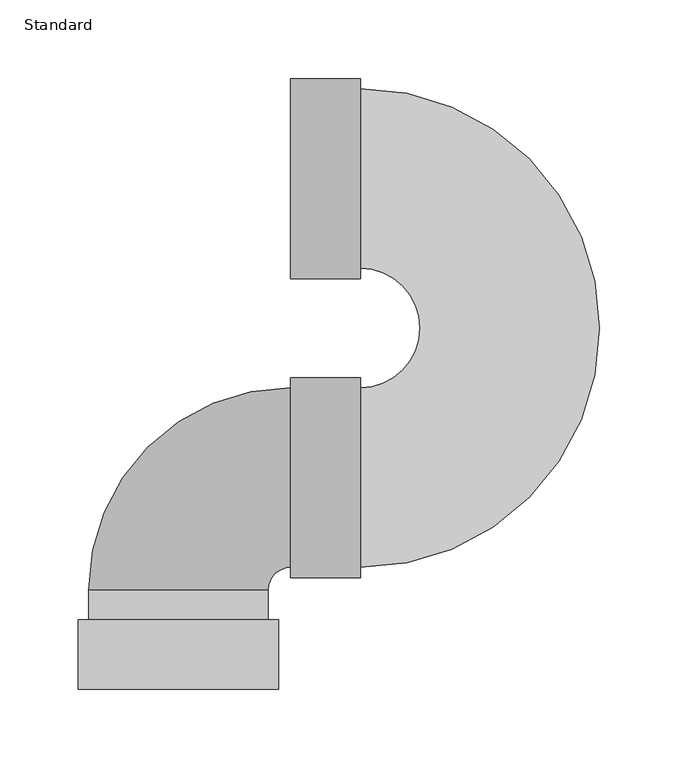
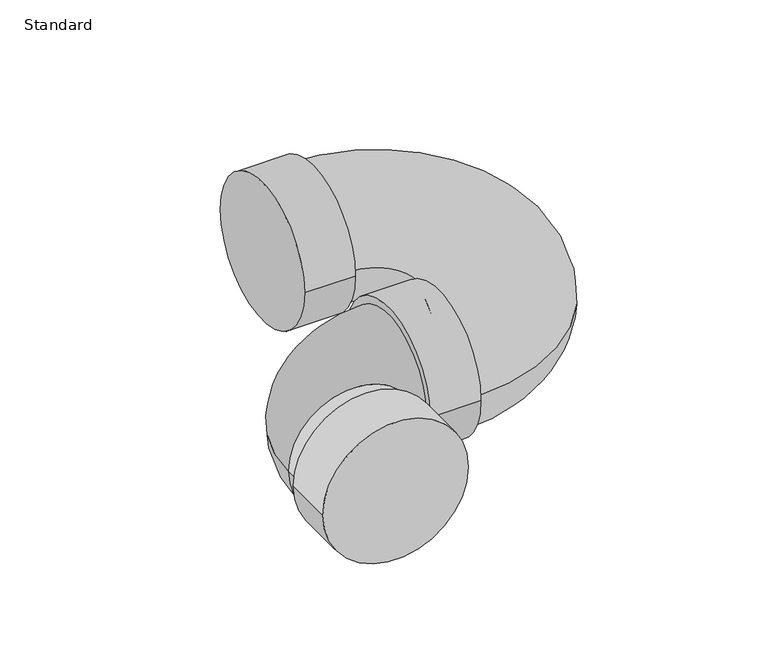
"""IFC4 building model written with IfcOpenShell, lengths in millimetres: pipe fitting geometry, GES P TRAP PVC Sch 40 - DWV : Standard."""

import ifcopenshell
import ifcopenshell.guid

model = None  # the IFC model being written
_history = None  # IfcOwnerHistory: only IFC2X3 demands one
_inside = {}  # id of a spatial element -> (the spatial element, [elements in it])
_under = {}  # id of a project, library or spatial element -> (it, [spatial elements below it])
_declared = {}  # id of a project -> (the project, [libraries it declares])
_typed = {}  # id of a type object -> (the type object, [elements of that type])
_made_of = {}  # id of a material, layer set ... -> (it, [elements and type objects made of it])


def new_model(schema):
    """Start an empty IFC model of exactly this schema.

    Asked for "IFC4X3", IfcOpenShell would pick the latest addendum, in which some entities
    have other attributes; the version numbers below select the first issue.
    IFC2X3 requires an IfcOwnerHistory on every rooted entity: one is made here for all.
    """
    global model, _history
    if schema == "IFC4X3":
        model = ifcopenshell.file(schema_version=(4, 3, 0, 0))
    else:
        model = ifcopenshell.file(schema=schema)
    _inside.clear()
    _under.clear()
    _declared.clear()
    _typed.clear()
    _made_of.clear()
    _history = None
    if model.schema == "IFC2X3":
        org = make("IfcOrganization", Name="unknown")
        user = make(
            "IfcPersonAndOrganization",
            ThePerson=make("IfcPerson", FamilyName="unknown"),
            TheOrganization=org,
        )
        app = make(
            "IfcApplication",
            ApplicationDeveloper=org,
            Version="unknown",
            ApplicationFullName="unknown",
            ApplicationIdentifier="unknown",
        )
        _history = make(
            "IfcOwnerHistory",
            OwningUser=user,
            OwningApplication=app,
            ChangeAction="ADDED",
            CreationDate=0,
        )
    return model


def make(cls, **values):
    """One entity of the class cls with the attributes given. An attribute that is None is left unset."""
    return model.create_entity(
        cls, **{name: value for name, value in values.items() if value is not None}
    )


def rooted(cls, **values):
    """An entity with a GlobalId (a new one), such as an element, a storey or a relation."""
    return make(cls, GlobalId=ifcopenshell.guid.new(), OwnerHistory=_history, **values)


def si_unit(unit_type, name, prefix=None):
    """IfcSIUnit, for example si_unit("LENGTHUNIT", "METRE", prefix="MILLI")."""
    return make("IfcSIUnit", UnitType=unit_type, Prefix=prefix, Name=name)


def assignment(units):
    """IfcUnitAssignment: the units of a project."""
    return None if units is None else make("IfcUnitAssignment", Units=units)


def point(xyz):
    """IfcCartesianPoint."""
    return None if xyz is None else make("IfcCartesianPoint", Coordinates=xyz)


def direction(xyz):
    """IfcDirection."""
    return None if xyz is None else make("IfcDirection", DirectionRatios=xyz)


def frame(location, z_axis=None, x_axis=None):
    """IfcAxis2Placement3D, a coordinate frame: its origin and axes. An axis left out is left unset."""
    return make(
        "IfcAxis2Placement3D",
        Location=point(location),
        Axis=direction(z_axis),
        RefDirection=direction(x_axis),
    )


def origin():
    """The frame at (0, 0, 0) with its axes left unset."""
    return frame((0.0, 0.0, 0.0))


def place(relative_to, where):
    """IfcLocalPlacement: puts the frame where relative to a parent placement (None: the world)."""
    return make(
        "IfcLocalPlacement", PlacementRelTo=relative_to, RelativePlacement=where
    )


def context(
    kind, dimensions, precision=None, world=None, true_north=None, identifier=None
):
    """IfcGeometricRepresentationContext, for example the 3D "Model" context."""
    return make(
        "IfcGeometricRepresentationContext",
        ContextIdentifier=identifier,
        ContextType=kind,
        CoordinateSpaceDimension=dimensions,
        Precision=precision,
        WorldCoordinateSystem=world,
        TrueNorth=true_north,
    )


def project(units=None, contexts=None):
    """IfcProject with its units and contexts."""
    return rooted(
        "IfcProject",
        Name="project",
        RepresentationContexts=contexts,
        UnitsInContext=assignment(units),
    )


def spatial(cls, under=None, at=None, **own):
    """A site, building, storey or space (cls), placed at a placement, below another one or the project."""
    s = rooted(cls, ObjectPlacement=at, **own)
    if under is not None:
        _under.setdefault(under.id(), (under, []))[1].append(s)
    return s


def circle_curve(where, radius):
    """IfcCircle in the frame where."""
    return make("IfcCircle", Position=where, Radius=radius)


def ellipse_curve(where, semi_axis1, semi_axis2):
    """IfcEllipse in the frame where."""
    return make(
        "IfcEllipse", Position=where, SemiAxis1=semi_axis1, SemiAxis2=semi_axis2
    )


def trimmed(basis, trim1, trim2, sense, master):
    """IfcTrimmedCurve: the piece of a basis curve between two trims."""
    return make(
        "IfcTrimmedCurve",
        BasisCurve=basis,
        Trim1=trim1,
        Trim2=trim2,
        SenseAgreement=sense,
        MasterRepresentation=master,
    )


def shape(context_of_items, identifier, shape_type, items):
    """IfcShapeRepresentation: the items that make up one representation, for example the "Body"."""
    return make(
        "IfcShapeRepresentation",
        ContextOfItems=context_of_items,
        RepresentationIdentifier=identifier,
        RepresentationType=shape_type,
        Items=items,
    )


def source(mapping_origin, context_of_items, identifier, shape_type, items):
    """IfcRepresentationMap: a shape defined once, which mapped items show again and again."""
    return make(
        "IfcRepresentationMap",
        MappingOrigin=mapping_origin,
        MappedRepresentation=shape(context_of_items, identifier, shape_type, items),
    )


def transform(
    local_origin,
    x_axis=None,
    y_axis=None,
    z_axis=None,
    scale=None,
    scale2=None,
    scale3=None,
    uniform=True,
):
    """IfcCartesianTransformationOperator3D, or its non-uniform kind. x_axis, y_axis, z_axis: its Axis1, 2, 3."""
    if uniform:
        return make(
            "IfcCartesianTransformationOperator3D",
            Axis1=direction(x_axis),
            Axis2=direction(y_axis),
            LocalOrigin=point(local_origin),
            Scale=scale,
            Axis3=direction(z_axis),
        )
    return make(
        "IfcCartesianTransformationOperator3DnonUniform",
        Axis1=direction(x_axis),
        Axis2=direction(y_axis),
        LocalOrigin=point(local_origin),
        Scale=scale,
        Axis3=direction(z_axis),
        Scale2=scale2,
        Scale3=scale3,
    )


def mapped(mapping_source, mapping_target):
    """IfcMappedItem: shows the shape of a source again, moved by a transform."""
    return make(
        "IfcMappedItem", MappingSource=mapping_source, MappingTarget=mapping_target
    )


def made_of(thing, what):
    """Note that an element or type object is made of a material, layer set ...; save() writes the relation."""
    if what is not None:
        _made_of.setdefault(what.id(), (what, []))[1].append(thing)
    return thing


def element(
    cls,
    number,
    at=None,
    inside=None,
    cuts=None,
    type_object=None,
    material=None,
    context=None,
    identifier="Body",
    shape_type=None,
    held_by="IfcProductDefinitionShape",
    body=None,
    shapes=None,
    **own,
):
    """One element of the class cls, such as IfcWall. Its Tag is "e" and its number.

    at: its placement. inside: the storey or other place that contains it. cuts: it is an
    opening in that element (IfcRelVoidsElement). A single representation is given by context,
    identifier, shape_type and body (its items); several are given by shapes. held_by: the class
    of the entity that holds the representations. save() writes the other relations.
    """
    e = rooted(cls, Tag="e%d" % number, ObjectPlacement=at, **own)
    if body is not None:
        shapes = [shape(context, identifier, shape_type, body)]
    if shapes is not None:
        e.Representation = make(held_by, Representations=shapes)
    if inside is not None:
        _inside.setdefault(inside.id(), (inside, []))[1].append(e)
    if cuts is not None:
        rooted(
            "IfcRelVoidsElement", RelatingBuildingElement=cuts, RelatedOpeningElement=e
        )
    if type_object is not None:
        _typed.setdefault(type_object.id(), (type_object, []))[1].append(e)
    return made_of(e, material)


def aggregate(whole, parts):
    """IfcRelAggregates: a whole, such as a stair, and the parts it consists of."""
    return rooted("IfcRelAggregates", RelatingObject=whole, RelatedObjects=parts)


def save(model, path):
    """Write the relations noted so far, then the file.

    IfcRelAggregates (storeys below a building ...), IfcRelContainedInSpatialStructure (elements
    in a storey), IfcRelDefinesByType, IfcRelAssociatesMaterial and IfcRelDeclares: one each for
    every whole, place, type object, material and project.
    """
    for whole, parts in _under.values():
        aggregate(whole, parts)
    for where, things in _inside.values():
        rooted(
            "IfcRelContainedInSpatialStructure",
            RelatedElements=things,
            RelatingStructure=where,
        )
    for kind, things in _typed.values():
        rooted("IfcRelDefinesByType", RelatedObjects=things, RelatingType=kind)
    for what, things in _made_of.values():
        rooted("IfcRelAssociatesMaterial", RelatedObjects=things, RelatingMaterial=what)
    for by, libraries in _declared.values():
        rooted("IfcRelDeclares", RelatingContext=by, RelatedDefinitions=libraries)
    model.write(path)


def plane_surface(at):
    """IfcPlane: the flat surface through the origin of the frame at, square to its z axis."""
    return make("IfcPlane", Position=at)


def cylinder_surface(at, radius):
    """IfcCylindricalSurface: all points at the distance radius from the z axis of the frame at."""
    return make("IfcCylindricalSurface", Position=at, Radius=radius)


def revolved_surface(curve, axis_point, axis_direction):
    """IfcSurfaceOfRevolution: the curve turned about the line through axis_point along axis_direction."""
    return make(
        "IfcSurfaceOfRevolution",
        SweptCurve=make("IfcArbitraryOpenProfileDef", ProfileType="CURVE", Curve=curve),
        AxisPosition=make("IfcAxis1Placement", Location=point(axis_point), Axis=direction(axis_direction)),
    )


def advanced_brep(points, edges, surfaces, faces):
    """IfcAdvancedBrep: a solid bounded by faces that lie on surfaces and meet in shared edges.

    An edge is (start, end): straight between two places in points (the first is 0);
    or (start, end, curve); or (start, end, curve, False) where it runs against its curve.
    A face is (place in surfaces, loops), or (place, loops, False) where it looks against
    its surface's normal. A loop lists edges by number (the first is 1), with a minus sign
    where the edge is run from its end to its start. The first loop is the outer one.
    """
    corners = [point(p) for p in points]
    vertices = [make("IfcVertexPoint", VertexGeometry=c) for c in corners]
    made = []
    for start, end, *more in edges:
        made.append(
            make(
                "IfcEdgeCurve",
                EdgeStart=vertices[start],
                EdgeEnd=vertices[end],
                EdgeGeometry=more[0] if more else make("IfcPolyline", Points=[corners[start], corners[end]]),
                SameSense=more[1] if len(more) > 1 else True,
            )
        )
    hull = []
    for where, loops, *sense in faces:
        bounds = []
        for j, loop in enumerate(loops):
            ring = [make("IfcOrientedEdge", EdgeElement=made[abs(k) - 1], Orientation=k > 0) for k in loop]
            bounds.append(
                make(
                    "IfcFaceOuterBound" if j == 0 else "IfcFaceBound",
                    Bound=make("IfcEdgeLoop", EdgeList=ring),
                    Orientation=True,
                )
            )
        hull.append(make("IfcAdvancedFace", Bounds=bounds, FaceSurface=surfaces[where], SameSense=sense[0] if sense else True))
    return make("IfcAdvancedBrep", Outer=make("IfcClosedShell", CfsFaces=hull))


def standard_902986a4(model_context):
    return source(origin(), model_context, "Body", "AdvancedBrep", [
        advanced_brep(
        [(-63.754, -325.4375, 0.0), (63.754, -325.4375, 0.0), (-63.754, -280.9875, 0.0), (63.754, -280.9875, 0.0), (-57.15, -280.9875, 0.0), (57.15, -280.9875, 0.0), (57.15, -261.9375, 0.0), (71.4375, -247.65, 0.0), (71.4375, -133.35, 0.0), (-57.15, -261.9375, 0.0), (115.8875, 57.15, 0.0), (115.8875, -57.15, 0.0), (115.8875, -133.35, 0.0), (115.8875, -247.65, 0.0), (71.4375, -126.746, 0.0), (71.4375, -254.254, 0.0), (115.8875, -126.746, 0.0), (115.8875, -254.254, 0.0), (71.4375, 63.754, 0.0), (71.4375, -63.754, 0.0), (115.8875, 63.754, 0.0), (115.8875, -63.754, 0.0)],
        [
            (0, 1, circle_curve(frame((0.0, -325.4375, 0.0), z_axis=(0.0, -1.0, 0.0), x_axis=(1.0, 0.0, 0.0)), 63.754)),
            (1, 0, circle_curve(frame((0.0, -325.4375, 0.0), z_axis=(0.0, -1.0, 0.0), x_axis=(1.0, 0.0, 0.0)), 63.754)),
            (2, 3, circle_curve(frame((0.0, -280.9875, 0.0), z_axis=(0.0, 1.0, 0.0), x_axis=(1.0, 0.0, 0.0)), 63.754)),
            (3, 2, circle_curve(frame((0.0, -280.9875, 0.0), z_axis=(0.0, 1.0, 0.0), x_axis=(1.0, 0.0, 0.0)), 63.754)),
            (4, 5, circle_curve(frame((0.0, -280.9875, 0.0), z_axis=(0.0, -1.0, 0.0), x_axis=(1.0, 0.0, 0.0)), 57.15)),
            (5, 4, circle_curve(frame((0.0, -280.9875, 0.0), z_axis=(0.0, -1.0, 0.0), x_axis=(1.0, 0.0, 0.0)), 57.15)),
            (1, 3),
            (2, 0),
            (6, 7, circle_curve(frame((71.4375, -261.9375, 0.0), z_axis=(0.0, 0.0, -1.0), x_axis=(-1.0, 0.0, 0.0)), 14.2875)),
            (7, 8, circle_curve(frame((71.4375, -190.5, 0.0), z_axis=(-1.0, 0.0, 0.0), x_axis=(0.0, -1.0, 0.0)), 57.15)),
            (8, 9, circle_curve(frame((71.4375, -261.9375, 0.0), z_axis=(0.0, 0.0, 1.0), x_axis=(-1.0, 0.0, 0.0)), 128.5875)),
            (9, 6, circle_curve(frame((0.0, -261.9375, 0.0), z_axis=(0.0, 1.0, 0.0), x_axis=(1.0, 0.0, 0.0)), 57.15)),
            (8, 7, circle_curve(frame((71.4375, -190.5, 0.0), z_axis=(-1.0, 0.0, 0.0), x_axis=(0.0, -1.0, 0.0)), 57.15)),
            (6, 9, circle_curve(frame((0.0, -261.9375, 0.0), z_axis=(0.0, 1.0, 0.0), x_axis=(1.0, 0.0, 0.0)), 57.15)),
            (10, 11, circle_curve(frame((115.8875, 0.0, 0.0), z_axis=(1.0, 0.0, 0.0), x_axis=(0.0, 1.0, 0.0)), 57.15)),
            (11, 12, circle_curve(frame((115.8875, -95.25, 0.0), z_axis=(0.0, 0.0, -1.0), x_axis=(0.0, -1.0, 0.0)), 38.1)),
            (12, 13, circle_curve(frame((115.8875, -190.5, 0.0), z_axis=(1.0, 0.0, 0.0), x_axis=(0.0, -1.0, 0.0)), 57.15)),
            (13, 10, circle_curve(frame((115.8875, -95.25, 0.0), z_axis=(0.0, 0.0, 1.0), x_axis=(0.0, -1.0, 0.0)), 152.4)),
            (13, 12, circle_curve(frame((115.8875, -190.5, 0.0), z_axis=(1.0, 0.0, 0.0), x_axis=(0.0, -1.0, 0.0)), 57.15)),
            (11, 10, circle_curve(frame((115.8875, 0.0, 0.0), z_axis=(1.0, 0.0, 0.0), x_axis=(0.0, 1.0, 0.0)), 57.15)),
            (14, 15, circle_curve(frame((71.4375, -190.5, 0.0), z_axis=(-1.0, 0.0, 0.0), x_axis=(0.0, -1.0, 0.0)), 63.754)),
            (15, 14, circle_curve(frame((71.4375, -190.5, 0.0), z_axis=(-1.0, 0.0, 0.0), x_axis=(0.0, -1.0, 0.0)), 63.754)),
            (16, 17, circle_curve(frame((115.8875, -190.5, 0.0), z_axis=(1.0, 0.0, 0.0), x_axis=(0.0, -1.0, 0.0)), 63.754)),
            (17, 16, circle_curve(frame((115.8875, -190.5, 0.0), z_axis=(1.0, 0.0, 0.0), x_axis=(0.0, -1.0, 0.0)), 63.754)),
            (15, 17),
            (16, 14),
            (18, 19, circle_curve(frame((71.4375, 0.0, 0.0), z_axis=(-1.0, 0.0, 0.0), x_axis=(0.0, -1.0, 0.0)), 63.754)),
            (19, 18, circle_curve(frame((71.4375, 0.0, 0.0), z_axis=(-1.0, 0.0, 0.0), x_axis=(0.0, -1.0, 0.0)), 63.754)),
            (20, 21, circle_curve(frame((115.8875, 0.0, 0.0), z_axis=(1.0, 0.0, 0.0), x_axis=(0.0, -1.0, 0.0)), 63.754)),
            (21, 20, circle_curve(frame((115.8875, 0.0, 0.0), z_axis=(1.0, 0.0, 0.0), x_axis=(0.0, -1.0, 0.0)), 63.754)),
            (19, 21),
            (20, 18),
            (9, 4),
            (5, 6),
        ],
        [
            plane_surface(frame((0.0, -325.4375, 0.0), z_axis=(0.0, -1.0, 0.0), x_axis=(0.0, 0.0, 1.0))),
            plane_surface(frame((0.0, -280.9875, 0.0), z_axis=(0.0, 1.0, 0.0), x_axis=(0.0, 0.0, 1.0))),
            cylinder_surface(frame((0.0, -325.4375, 0.0), z_axis=(0.0, -1.0, 0.0), x_axis=(1.0, 0.0, 0.0)), 63.754),
            revolved_surface(trimmed(ellipse_curve(frame((0.0, -261.9375, 0.0), z_axis=(0.0, 1.0, 0.0), x_axis=(1.0, 0.0, 0.0)), 57.15, 57.15), [point((-57.15, -261.9375, 0.0))], [point((57.15, -261.9375, 0.0))], True, "CARTESIAN"), (71.4375, -261.9375, 0.0), (0.0, 0.0, 1.0)),
            revolved_surface(trimmed(ellipse_curve(frame((0.0, -261.9375, 0.0), z_axis=(0.0, 1.0, 0.0), x_axis=(1.0, 0.0, 0.0)), 57.15, 57.15), [point((57.15, -261.9375, 0.0))], [point((-57.15, -261.9375, 0.0))], True, "CARTESIAN"), (71.4375, -261.9375, 0.0), (0.0, 0.0, 1.0)),
            revolved_surface(trimmed(ellipse_curve(frame((115.8875, -190.5, 0.0), z_axis=(1.0, 0.0, 0.0), x_axis=(0.0, -1.0, 0.0)), 57.15, 57.15), [point((115.8875, -133.35, 0.0))], [point((115.8875, -247.65, 0.0))], True, "CARTESIAN"), (115.8875, -95.25, 0.0), (0.0, 0.0, -1.0)),
            revolved_surface(trimmed(ellipse_curve(frame((115.8875, -190.5, 0.0), z_axis=(1.0, 0.0, 0.0), x_axis=(0.0, -1.0, 0.0)), 57.15, 57.15), [point((115.8875, -247.65, 0.0))], [point((115.8875, -133.35, 0.0))], True, "CARTESIAN"), (115.8875, -95.25, 0.0), (0.0, 0.0, -1.0)),
            plane_surface(frame((71.4375, -190.5, 0.0), z_axis=(-1.0, 0.0, 0.0), x_axis=(0.0, 0.0, 1.0))),
            plane_surface(frame((115.8875, -190.5, 0.0), z_axis=(1.0, 0.0, 0.0), x_axis=(0.0, 0.0, 1.0))),
            cylinder_surface(frame((71.4375, -190.5, 0.0), z_axis=(-1.0, 0.0, 0.0), x_axis=(0.0, -1.0, 0.0)), 63.754),
            plane_surface(frame((71.4375, 0.0, 0.0), z_axis=(-1.0, 0.0, 0.0), x_axis=(0.0, 0.0, 1.0))),
            plane_surface(frame((115.8875, 0.0, 0.0), z_axis=(1.0, 0.0, 0.0), x_axis=(0.0, 0.0, 1.0))),
            cylinder_surface(frame((71.4375, 0.0, 0.0), z_axis=(-1.0, 0.0, 0.0), x_axis=(0.0, -1.0, 0.0)), 63.754),
            cylinder_surface(frame((0.0, -325.4375, 0.0), z_axis=(0.0, -1.0, 0.0), x_axis=(1.0, 0.0, 0.0)), 57.15),
        ],
        [
            (0, [[1, 2]]),
            (1, [[3, 4], [5, 6]]),
            (2, [[7, -3, 8, -2]]),
            (2, [[-8, -4, -7, -1]]),
            (3, [[9, 10, 11, 12]]),
            (4, [[-11, 13, -9, 14]]),
            (5, [[15, 16, 17, 18]]),
            (6, [[19, -16, 20, -18]]),
            (7, [[21, 22], [-13, -10]]),
            (8, [[23, 24], [-19, -17]]),
            (9, [[25, -23, 26, -22]]),
            (9, [[-26, -24, -25, -21]]),
            (10, [[27, 28]]),
            (11, [[29, 30], [-20, -15]]),
            (12, [[31, -29, 32, -28]]),
            (12, [[-32, -30, -31, -27]]),
            (13, [[33, -6, 34, -12]]),
            (13, [[-34, -5, -33, -14]]),
        ],
    ),
    ])


if __name__ == "__main__":
    model = new_model("IFC4")
    model_context = context("Model", 3, world=origin())
    ifc_project = project(units=[si_unit("LENGTHUNIT", "METRE", prefix="MILLI")], contexts=[model_context])
    site = spatial("IfcSite", under=ifc_project)
    building = spatial("IfcBuilding", under=site)
    placement = place(None, origin())
    standard_shape = standard_902986a4(model_context)
    element("IfcPipeFitting", 1, ObjectType="GES P TRAP PVC Sch 40 - DWV : Standard", at=placement, inside=building, context=model_context, shape_type="MappedRepresentation", body=[
        mapped(standard_shape, transform((0.0, 0.0, 0.0), x_axis=(1.0, 0.0, 0.0), y_axis=(0.0, 1.0, 0.0), z_axis=(0.0, 0.0, 1.0))),
    ])
    save(model, "model.ifc")
